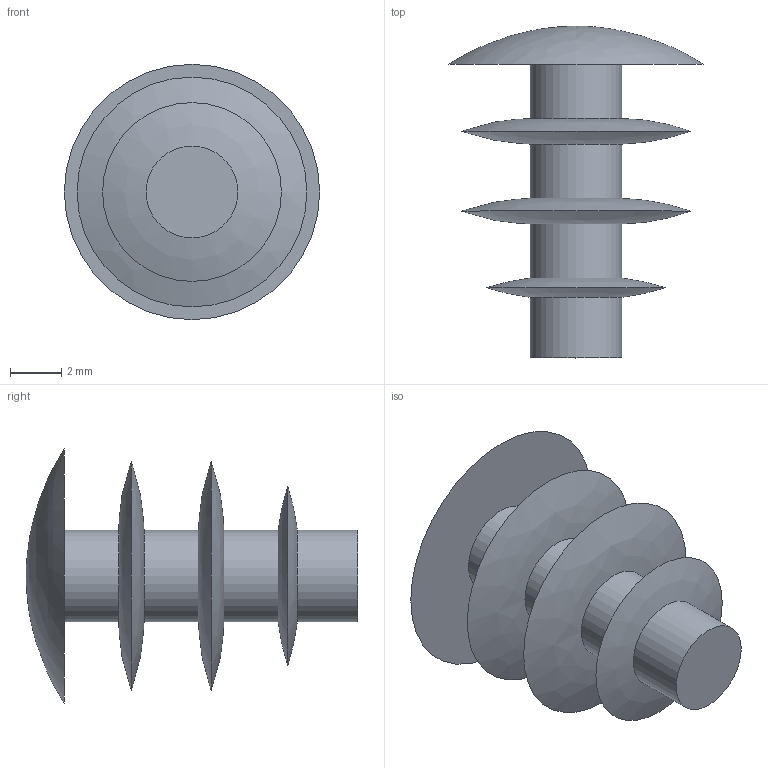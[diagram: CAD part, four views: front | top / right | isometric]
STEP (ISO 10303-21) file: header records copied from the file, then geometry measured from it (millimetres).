
FILE_DESCRIPTION((''),'2;1');
FILE_NAME('C:\Documents and Settings\Administrator\My Documents\Andys Backup Data\ANDY''S INVENTOR\INVENTOR LIBRARIES\MINITEC INVENTOR LIBRARIES\END CAPS\A PACKED FILES\STEP FILES\22.1200_1 LAMELLAR PLUG 7 GRAY.stp','2010-07-06T12:04:03',('Administrator'),(''),'Autodesk Inventor 2009','Autodesk Inventor 2009','');
FILE_SCHEMA(('CONFIG_CONTROL_DESIGN'));
Length unit declared in the file: millimetre
Products named in the file (1): 22.1200_1 LAMELLAR PLUG 7 GRAY
Bounding box: 10 x 13 x 10 mm (x, y, z)
Volume: 250.1 mm3; surface area: 540.4 mm2
Topology: 1 solids, 1 shells, 13 faces, 25 edges, 14 vertices
Faces by surface type: bspline 7, cylinder 4, plane 2
Full cylindrical faces by diameter (mm): 3.6 x4
Entity records: 425 total; most frequent: CARTESIAN_POINT 220, DIRECTION 38, ORIENTED_EDGE 24, EDGE_LOOP 24, AXIS2_PLACEMENT_3D 19, FACE_OUTER_BOUND 13, ADVANCED_FACE 13, VERTEX_POINT 12
